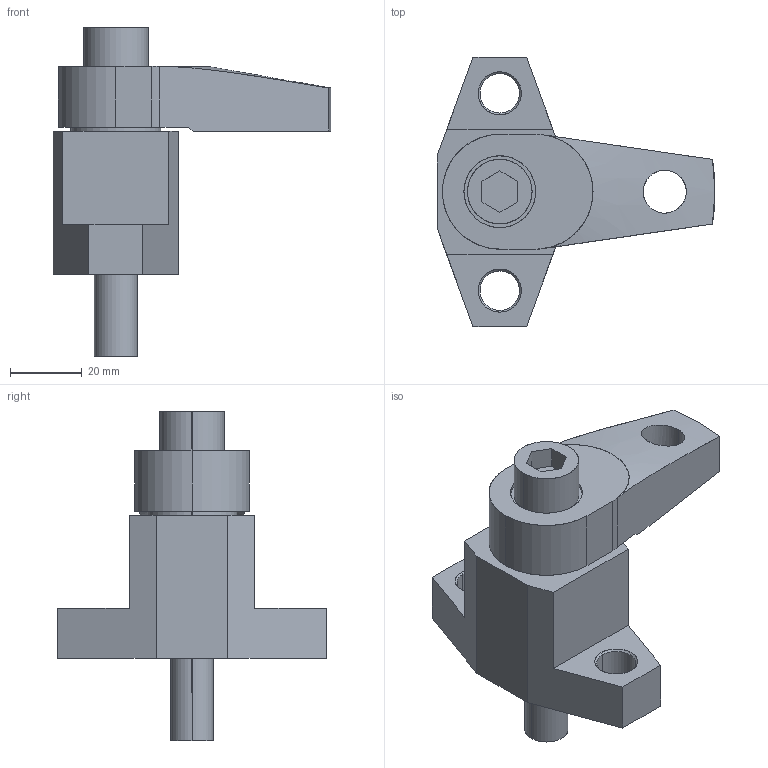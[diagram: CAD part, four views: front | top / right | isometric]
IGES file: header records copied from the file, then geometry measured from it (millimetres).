
Start section: SolidWorks IGES file using analytic representation for surfaces
Global section: file name: X:\11_SW2020-Inv2020\00_全2021-11新製品まで\b\BJ130-12160B1\bj130-12160b1.IGS; native system: SolidWorks 2020; preprocessor: SolidWorks 2020; author: ImaoCorp; date: 211025.100903; units: millimetre
Bounding box: 77.5 x 75 x 92 mm (x, y, z)
Surface area: 29796.6 mm2 (no closed solid volume)
Topology: 0 solids, 0 shells, 71 faces, 1032 edges, 1032 vertices
Faces by surface type: revolution 38, bspline 33
